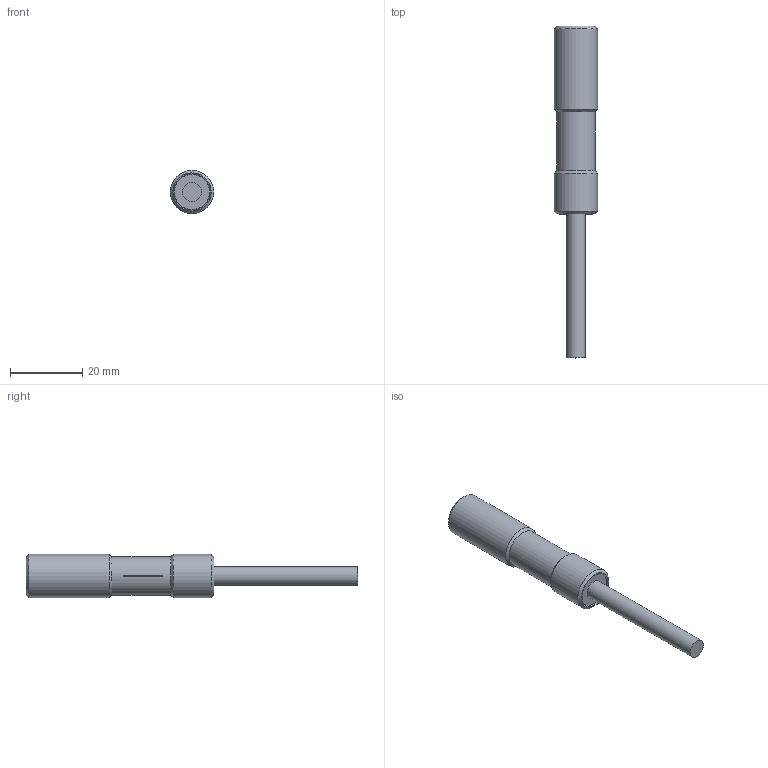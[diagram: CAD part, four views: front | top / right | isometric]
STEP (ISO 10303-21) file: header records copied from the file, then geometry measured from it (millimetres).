
FILE_DESCRIPTION((''),'2;1');
FILE_NAME('C:\Dokumente und Einstellungen\Waneck\Eigene Dateien\Waneck\Zeichnungen\Betz\PRAS1-KAB.stp','2010-02-04T15:49:47',('waneck'),(''),'Autodesk Inventor 2008','Autodesk Inventor 2008','');
FILE_SCHEMA(('AUTOMOTIVE_DESIGN { 1 0 10303 214 1 1 1 1 }'));
Length unit declared in the file: millimetre
Products named in the file (1): Bauteil2
Bounding box: 12 x 91.84 x 12 mm (x, y, z)
Volume: 6258 mm3; surface area: 2775.6 mm2
Topology: 1 solids, 1 shells, 18 faces, 35 edges, 22 vertices
Faces by surface type: plane 9, cone 5, cylinder 4
Full cylindrical faces by diameter (mm): 5.2 x1, 10.6 x1, 12 x2
Entity records: 445 total; most frequent: DIRECTION 76, CARTESIAN_POINT 63, ORIENTED_EDGE 48, AXIS2_PLACEMENT_3D 33, EDGE_LOOP 30, EDGE_CURVE 24, VERTEX_POINT 20, FACE_OUTER_BOUND 18
